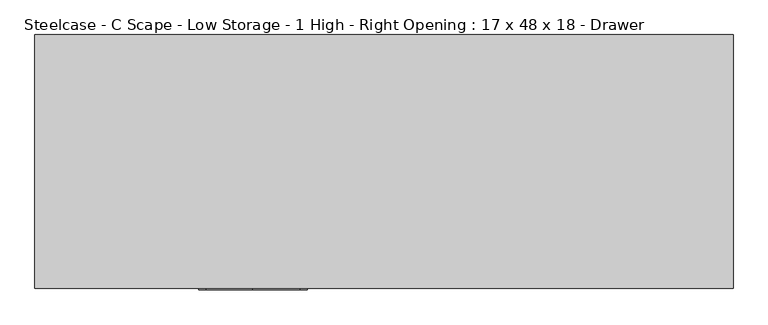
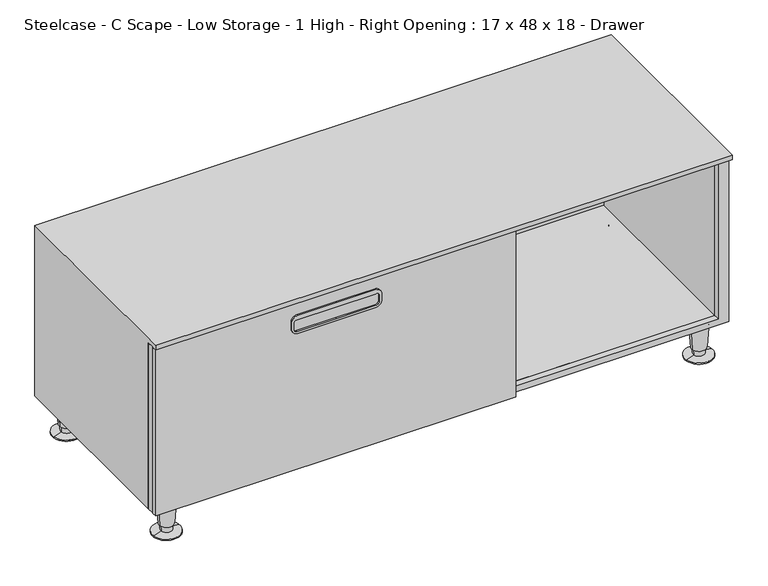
"""IFC4 building model written with IfcOpenShell, lengths in millimetres: furniture geometry, Steelcase - C Scape - Low Storage - 1 High - Right Opening : 17 x 48 x 18 - Drawer."""

from ifc_helpers import new_model, si_unit, point, frame, frame_2d, origin, place, context, project, spatial, polyline, circle_curve, trimmed, segment, composite_curve, outline, extrude, faceted_brep, source, transform, mapped, element, save
from ifc_brep_helpers import plane_surface, cylinder_surface, revolved_surface, advanced_brep


def steelcase_c_scape_low_storage_1_high_right_opening_17_x_48_x_c57a0b1c(model_context):
    return source(origin(), model_context, "Body", "SolidModel", [
        extrude(outline(polyline([(447.0400097, 0.0), (76.2, 0.0), (76.2, 1217.9313237), (447.0400097, 1217.9313237), (447.0400097, 0.0)]), holes=[polyline([(89.5349964, 1196.5930912), (89.5349964, 21.3382324), (436.2449927, 21.3382324), (436.2449927, 1196.5930912), (89.5349964, 1196.5930912)])]), frame((0.0, -428.8790543, 0.0), z_axis=(0.0, 1.0, 0.0), x_axis=(0.0, 0.0, 1.0)), (0.0, 0.0, 1.0), 13.587814),
        extrude(outline(composite_curve([segment(trimmed(circle_curve(frame_2d((409.5749879, 298.1323993)), 12.7), [point((422.2749879, 298.1323993))], [point((409.5749879, 285.4323993))], False, "CARTESIAN"), True, "CONTINUOUS"), segment(polyline([(409.5749879, 285.4323993), (394.970017, 285.4323993)]), True, "CONTINUOUS"), segment(trimmed(circle_curve(frame_2d((394.970017, 298.1323993)), 12.7), [point((394.970017, 285.4323993))], [point((382.270017, 298.1323993))], False, "CARTESIAN"), True, "CONTINUOUS"), segment(polyline([(382.270017, 298.1323993), (382.270017, 380.365155), (382.270017, 462.5979108)]), True, "CONTINUOUS"), segment(trimmed(circle_curve(frame_2d((394.970017, 462.5979108)), 12.7), [point((382.270017, 462.5979108))], [point((394.970017, 475.2979108))], False, "CARTESIAN"), True, "CONTINUOUS"), segment(polyline([(394.970017, 475.2979108), (409.5749879, 475.2979108)]), True, "CONTINUOUS"), segment(trimmed(circle_curve(frame_2d((409.5749879, 462.5979108)), 12.7), [point((409.5749879, 475.2979108))], [point((422.2749879, 462.5979108))], False, "CARTESIAN"), True, "CONTINUOUS"), segment(polyline([(422.2749879, 462.5979108), (422.2749879, 380.365155), (422.2749879, 298.1323993)]), True, "CONTINUOUS")], self_intersect=False), holes=[composite_curve([segment(trimmed(circle_curve(frame_2d((406.1460063, 296.6100116)), 6.35), [point((406.1460063, 290.2600116))], [point((412.4960063, 296.6100116))], True, "CARTESIAN"), True, "CONTINUOUS"), segment(polyline([(412.4960063, 296.6100116), (412.4960063, 380.365155), (412.4960063, 464.1202985)]), True, "CONTINUOUS"), segment(trimmed(circle_curve(frame_2d((406.1460063, 464.1202985)), 6.35), [point((412.4960063, 464.1202985))], [point((406.1460063, 470.4702985))], True, "CARTESIAN"), True, "CONTINUOUS"), segment(polyline([(406.1460063, 470.4702985), (393.4459942, 470.4702985)]), True, "CONTINUOUS"), segment(trimmed(circle_curve(frame_2d((393.4459942, 464.1202985)), 6.35), [point((393.4459942, 470.4702985))], [point((387.0959942, 464.1202985))], True, "CARTESIAN"), True, "CONTINUOUS"), segment(polyline([(387.0959942, 464.1202985), (387.0959942, 380.365155), (387.0959942, 296.6100116)]), True, "CONTINUOUS"), segment(trimmed(circle_curve(frame_2d((393.4459942, 296.6100116)), 6.35), [point((387.0959942, 296.6100116))], [point((393.4459942, 290.2600116))], True, "CARTESIAN"), True, "CONTINUOUS"), segment(polyline([(393.4459942, 290.2600116), (406.1460063, 290.2600116)]), True, "CONTINUOUS")], self_intersect=False)]), frame((0.0, -445.643, 0.0), z_axis=(0.0, 1.0, 0.0), x_axis=(0.0, 0.0, 1.0)), (0.0, 0.0, 1.0), 3.0479225),
        advanced_brep(
        [(1190.6611931, -31.5218435, 76.2), (1152.9994542, -37.2840847, 76.2), (1171.8303237, -34.4029641, 76.2), (1186.7108451, -32.1262463, 19.05), (1156.9498022, -36.6796819, 19.05), (1184.2812581, -32.4979728, 19.05), (1159.3793892, -36.3079555, 19.05), (1183.5924887, -32.6033544, 5.7545598), (1160.0681586, -36.2025738, 5.7545598), (1200.9413721, -29.9489775, 2.5119506), (1142.7192752, -38.8569507, 2.5119506), (1200.9413721, -29.9489775, 0.0), (1142.7192752, -38.8569507, 0.0), (1171.8303237, -34.4029641, 0.0)],
        [
            (0, 1, circle_curve(frame((1171.8303237, -34.4029641, 76.2), z_axis=(0.0, 0.0, 1.0), x_axis=(0.0, -1.0, 0.0)), 19.05)),
            (1, 2),
            (2, 0),
            (1, 0, circle_curve(frame((1171.8303237, -34.4029641, 76.2), z_axis=(0.0, 0.0, 1.0), x_axis=(0.0, -1.0, 0.0)), 19.05)),
            (3, 4, circle_curve(frame((1171.8303237, -34.4029641, 19.05), z_axis=(0.0, 0.0, 1.0), x_axis=(0.0, -1.0, 0.0)), 15.0536827)),
            (4, 1),
            (0, 3),
            (4, 3, circle_curve(frame((1171.8303237, -34.4029641, 19.05), z_axis=(0.0, 0.0, 1.0), x_axis=(0.0, -1.0, 0.0)), 15.0536827)),
            (5, 6, circle_curve(frame((1171.8303237, -34.4029641, 19.05), z_axis=(0.0, 0.0, 1.0), x_axis=(0.0, -1.0, 0.0)), 12.5958232)),
            (6, 4),
            (3, 5),
            (6, 5, circle_curve(frame((1171.8303237, -34.4029641, 19.05), z_axis=(0.0, 0.0, 1.0), x_axis=(0.0, -1.0, 0.0)), 12.5958232)),
            (7, 8, circle_curve(frame((1171.8303237, -34.4029641, 5.7545598), z_axis=(0.0, 0.0, 1.0), x_axis=(0.0, -1.0, 0.0)), 11.8990387)),
            (8, 6),
            (5, 7),
            (8, 7, circle_curve(frame((1171.8303237, -34.4029641, 5.7545598), z_axis=(0.0, 0.0, 1.0), x_axis=(0.0, -1.0, 0.0)), 11.8990387)),
            (9, 10, circle_curve(frame((1171.8303237, -34.4029641, 2.5119506), z_axis=(0.0, 0.0, 1.0), x_axis=(0.0, -1.0, 0.0)), 29.4498071)),
            (10, 8),
            (7, 9),
            (10, 9, circle_curve(frame((1171.8303237, -34.4029641, 2.5119506), z_axis=(0.0, 0.0, 1.0), x_axis=(0.0, -1.0, 0.0)), 29.4498071)),
            (11, 12, circle_curve(frame((1171.8303237, -34.4029641, 0.0), z_axis=(0.0, 0.0, 1.0), x_axis=(0.0, -1.0, 0.0)), 29.4498071)),
            (12, 10),
            (9, 11),
            (12, 11, circle_curve(frame((1171.8303237, -34.4029641, 0.0), z_axis=(0.0, 0.0, 1.0), x_axis=(0.0, -1.0, 0.0)), 29.4498071)),
            (13, 12),
            (11, 13),
        ],
        [
            plane_surface(frame((1171.8303237, -34.4029641, 76.2), z_axis=(0.0, 0.0, 1.0), x_axis=(0.0, -1.0, 0.0))),
            revolved_surface(polyline([(1171.8303237, -53.4529641, 76.2), (1171.8303237, -49.4566468, 19.05)]), (1171.8303237, -34.4029641, 25.4), (0.0, 0.0, -1.0)),
            plane_surface(frame((1171.8303237, -34.4029641, 19.05), z_axis=(0.0, 0.0, -1.0), x_axis=(0.0, -1.0, 0.0))),
            revolved_surface(polyline([(1171.8303237, -46.9987873, 19.05), (1171.8303237, -46.3020028, 5.7545598)]), (1171.8303237, -34.4029641, 25.4), (0.0, 0.0, -1.0)),
            revolved_surface(polyline([(1171.8303237, -46.3020028, 5.7545598), (1171.8303237, -63.8527712, 2.5119506)]), (1171.8303237, -34.4029641, 25.4), (0.0, 0.0, -1.0)),
            cylinder_surface(frame((1171.8303237, -34.4029641, 25.4), z_axis=(0.0, 0.0, -1.0), x_axis=(0.0, -1.0, 0.0)), 29.4498071),
            plane_surface(frame((1171.8303237, -34.4029641, 0.0), z_axis=(0.0, 0.0, -1.0), x_axis=(0.0, -1.0, 0.0))),
        ],
        [
            (0, [[1, 2, 3]]),
            (0, [[4, -3, -2]]),
            (1, [[5, 6, -1, 7]]),
            (1, [[8, -7, -4, -6]]),
            (2, [[9, 10, -5, 11]]),
            (2, [[12, -11, -8, -10]]),
            (3, [[13, 14, -9, 15]]),
            (3, [[16, -15, -12, -14]]),
            (4, [[17, 18, -13, 19]]),
            (4, [[20, -19, -16, -18]]),
            (5, [[21, 22, -17, 23]]),
            (5, [[24, -23, -20, -22]]),
            (6, [[25, -21, 26]]),
            (6, [[-26, -24, -25]]),
        ],
    ),
        advanced_brep(
        [(1190.6611931, -397.1702762, 76.2), (1152.9994542, -402.9325174, 76.2), (1171.8303237, -400.0513968, 76.2), (1186.7108451, -397.774679, 19.05), (1156.9498022, -402.3281146, 19.05), (1184.2812581, -398.1464055, 19.05), (1159.3793892, -401.9563882, 19.05), (1183.5924887, -398.2517871, 5.7545598), (1160.0681586, -401.8510065, 5.7545598), (1200.9413721, -395.5974102, 2.5119506), (1142.7192752, -404.5053834, 2.5119506), (1200.9413721, -395.5974102, 0.0), (1142.7192752, -404.5053834, 0.0), (1171.8303237, -400.0513968, 0.0)],
        [
            (0, 1, circle_curve(frame((1171.8303237, -400.0513968, 76.2), z_axis=(0.0, 0.0, 1.0), x_axis=(0.0, -1.0, 0.0)), 19.05)),
            (1, 2),
            (2, 0),
            (1, 0, circle_curve(frame((1171.8303237, -400.0513968, 76.2), z_axis=(0.0, 0.0, 1.0), x_axis=(0.0, -1.0, 0.0)), 19.05)),
            (3, 4, circle_curve(frame((1171.8303237, -400.0513968, 19.05), z_axis=(0.0, 0.0, 1.0), x_axis=(0.0, -1.0, 0.0)), 15.0536827)),
            (4, 1),
            (0, 3),
            (4, 3, circle_curve(frame((1171.8303237, -400.0513968, 19.05), z_axis=(0.0, 0.0, 1.0), x_axis=(0.0, -1.0, 0.0)), 15.0536827)),
            (5, 6, circle_curve(frame((1171.8303237, -400.0513968, 19.05), z_axis=(0.0, 0.0, 1.0), x_axis=(0.0, -1.0, 0.0)), 12.5958232)),
            (6, 4),
            (3, 5),
            (6, 5, circle_curve(frame((1171.8303237, -400.0513968, 19.05), z_axis=(0.0, 0.0, 1.0), x_axis=(0.0, -1.0, 0.0)), 12.5958232)),
            (7, 8, circle_curve(frame((1171.8303237, -400.0513968, 5.7545598), z_axis=(0.0, 0.0, 1.0), x_axis=(0.0, -1.0, 0.0)), 11.8990387)),
            (8, 6),
            (5, 7),
            (8, 7, circle_curve(frame((1171.8303237, -400.0513968, 5.7545598), z_axis=(0.0, 0.0, 1.0), x_axis=(0.0, -1.0, 0.0)), 11.8990387)),
            (9, 10, circle_curve(frame((1171.8303237, -400.0513968, 2.5119506), z_axis=(0.0, 0.0, 1.0), x_axis=(0.0, -1.0, 0.0)), 29.4498071)),
            (10, 8),
            (7, 9),
            (10, 9, circle_curve(frame((1171.8303237, -400.0513968, 2.5119506), z_axis=(0.0, 0.0, 1.0), x_axis=(0.0, -1.0, 0.0)), 29.4498071)),
            (11, 12, circle_curve(frame((1171.8303237, -400.0513968, 0.0), z_axis=(0.0, 0.0, 1.0), x_axis=(0.0, -1.0, 0.0)), 29.4498071)),
            (12, 10),
            (9, 11),
            (12, 11, circle_curve(frame((1171.8303237, -400.0513968, 0.0), z_axis=(0.0, 0.0, 1.0), x_axis=(0.0, -1.0, 0.0)), 29.4498071)),
            (13, 12),
            (11, 13),
        ],
        [
            plane_surface(frame((1171.8303237, -400.0513968, 76.2), z_axis=(0.0, 0.0, 1.0), x_axis=(0.0, -1.0, 0.0))),
            revolved_surface(polyline([(1171.8303237, -419.1013968, 76.2), (1171.8303237, -415.1050795, 19.05)]), (1171.8303237, -400.0513968, 25.4), (0.0, 0.0, -1.0)),
            plane_surface(frame((1171.8303237, -400.0513968, 19.05), z_axis=(0.0, 0.0, -1.0), x_axis=(0.0, -1.0, 0.0))),
            revolved_surface(polyline([(1171.8303237, -412.64722, 19.05), (1171.8303237, -411.9504355, 5.7545598)]), (1171.8303237, -400.0513968, 25.4), (0.0, 0.0, -1.0)),
            revolved_surface(polyline([(1171.8303237, -411.9504355, 5.7545598), (1171.8303237, -429.5012039, 2.5119506)]), (1171.8303237, -400.0513968, 25.4), (0.0, 0.0, -1.0)),
            cylinder_surface(frame((1171.8303237, -400.0513968, 25.4), z_axis=(0.0, 0.0, -1.0), x_axis=(0.0, -1.0, 0.0)), 29.4498071),
            plane_surface(frame((1171.8303237, -400.0513968, 0.0), z_axis=(0.0, 0.0, -1.0), x_axis=(0.0, -1.0, 0.0))),
        ],
        [
            (0, [[1, 2, 3]]),
            (0, [[4, -3, -2]]),
            (1, [[5, 6, -1, 7]]),
            (1, [[8, -7, -4, -6]]),
            (2, [[9, 10, -5, 11]]),
            (2, [[12, -11, -8, -10]]),
            (3, [[13, 14, -9, 15]]),
            (3, [[16, -15, -12, -14]]),
            (4, [[17, 18, -13, 19]]),
            (4, [[20, -19, -16, -18]]),
            (5, [[21, 22, -17, 23]]),
            (5, [[24, -23, -20, -22]]),
            (6, [[25, -21, 26]]),
            (6, [[-26, -24, -25]]),
        ],
    ),
        advanced_brep(
        [(65.5422821, -397.1702762, 76.2), (27.8805432, -402.9325174, 76.2), (46.7114126, -400.0513968, 76.2), (61.5919341, -397.774679, 19.05), (31.8308912, -402.3281146, 19.05), (59.1623471, -398.1464055, 19.05), (34.2604781, -401.9563882, 19.05), (58.4735776, -398.2517871, 5.7545598), (34.9492476, -401.8510065, 5.7545598), (75.8224611, -395.5974102, 2.5119506), (17.6003641, -404.5053834, 2.5119506), (75.8224611, -395.5974102, 0.0), (17.6003641, -404.5053834, 0.0), (46.7114126, -400.0513968, 0.0)],
        [
            (0, 1, circle_curve(frame((46.7114126, -400.0513968, 76.2), z_axis=(0.0, 0.0, 1.0), x_axis=(0.0, -1.0, 0.0)), 19.05)),
            (1, 2),
            (2, 0),
            (1, 0, circle_curve(frame((46.7114126, -400.0513968, 76.2), z_axis=(0.0, 0.0, 1.0), x_axis=(0.0, -1.0, 0.0)), 19.05)),
            (3, 4, circle_curve(frame((46.7114126, -400.0513968, 19.05), z_axis=(0.0, 0.0, 1.0), x_axis=(0.0, -1.0, 0.0)), 15.0536827)),
            (4, 1),
            (0, 3),
            (4, 3, circle_curve(frame((46.7114126, -400.0513968, 19.05), z_axis=(0.0, 0.0, 1.0), x_axis=(0.0, -1.0, 0.0)), 15.0536827)),
            (5, 6, circle_curve(frame((46.7114126, -400.0513968, 19.05), z_axis=(0.0, 0.0, 1.0), x_axis=(0.0, -1.0, 0.0)), 12.5958232)),
            (6, 4),
            (3, 5),
            (6, 5, circle_curve(frame((46.7114126, -400.0513968, 19.05), z_axis=(0.0, 0.0, 1.0), x_axis=(0.0, -1.0, 0.0)), 12.5958232)),
            (7, 8, circle_curve(frame((46.7114126, -400.0513968, 5.7545598), z_axis=(0.0, 0.0, 1.0), x_axis=(0.0, -1.0, 0.0)), 11.8990387)),
            (8, 6),
            (5, 7),
            (8, 7, circle_curve(frame((46.7114126, -400.0513968, 5.7545598), z_axis=(0.0, 0.0, 1.0), x_axis=(0.0, -1.0, 0.0)), 11.8990387)),
            (9, 10, circle_curve(frame((46.7114126, -400.0513968, 2.5119506), z_axis=(0.0, 0.0, 1.0), x_axis=(0.0, -1.0, 0.0)), 29.4498071)),
            (10, 8),
            (7, 9),
            (10, 9, circle_curve(frame((46.7114126, -400.0513968, 2.5119506), z_axis=(0.0, 0.0, 1.0), x_axis=(0.0, -1.0, 0.0)), 29.4498071)),
            (11, 12, circle_curve(frame((46.7114126, -400.0513968, 0.0), z_axis=(0.0, 0.0, 1.0), x_axis=(0.0, -1.0, 0.0)), 29.4498071)),
            (12, 10),
            (9, 11),
            (12, 11, circle_curve(frame((46.7114126, -400.0513968, 0.0), z_axis=(0.0, 0.0, 1.0), x_axis=(0.0, -1.0, 0.0)), 29.4498071)),
            (13, 12),
            (11, 13),
        ],
        [
            plane_surface(frame((46.7114126, -400.0513968, 76.2), z_axis=(0.0, 0.0, 1.0), x_axis=(0.0, -1.0, 0.0))),
            revolved_surface(polyline([(46.7114126, -419.1013968, 76.2), (46.7114126, -415.1050795, 19.05)]), (46.7114126, -400.0513968, 25.4), (0.0, 0.0, -1.0)),
            plane_surface(frame((46.7114126, -400.0513968, 19.05), z_axis=(0.0, 0.0, -1.0), x_axis=(0.0, -1.0, 0.0))),
            revolved_surface(polyline([(46.7114126, -412.64722, 19.05), (46.7114126, -411.9504355, 5.7545598)]), (46.7114126, -400.0513968, 25.4), (0.0, 0.0, -1.0)),
            revolved_surface(polyline([(46.7114126, -411.9504355, 5.7545598), (46.7114126, -429.5012039, 2.5119506)]), (46.7114126, -400.0513968, 25.4), (0.0, 0.0, -1.0)),
            cylinder_surface(frame((46.7114126, -400.0513968, 25.4), z_axis=(0.0, 0.0, -1.0), x_axis=(0.0, -1.0, 0.0)), 29.4498071),
            plane_surface(frame((46.7114126, -400.0513968, 0.0), z_axis=(0.0, 0.0, -1.0), x_axis=(0.0, -1.0, 0.0))),
        ],
        [
            (0, [[1, 2, 3]]),
            (0, [[4, -3, -2]]),
            (1, [[5, 6, -1, 7]]),
            (1, [[8, -7, -4, -6]]),
            (2, [[9, 10, -5, 11]]),
            (2, [[12, -11, -8, -10]]),
            (3, [[13, 14, -9, 15]]),
            (3, [[16, -15, -12, -14]]),
            (4, [[17, 18, -13, 19]]),
            (4, [[20, -19, -16, -18]]),
            (5, [[21, 22, -17, 23]]),
            (5, [[24, -23, -20, -22]]),
            (6, [[25, -21, 26]]),
            (6, [[-26, -24, -25]]),
        ],
    ),
        advanced_brep(
        [(65.5422821, -31.5218435, 76.2), (27.8805432, -37.2840847, 76.2), (46.7114126, -34.4029641, 76.2), (61.5919341, -32.1262463, 19.05), (31.8308912, -36.6796819, 19.05), (59.1623471, -32.4979728, 19.05), (34.2604781, -36.3079555, 19.05), (58.4735776, -32.6033544, 5.7545598), (34.9492476, -36.2025738, 5.7545598), (75.8224611, -29.9489775, 2.5119506), (17.6003641, -38.8569507, 2.5119506), (75.8224611, -29.9489775, 0.0), (17.6003641, -38.8569507, 0.0), (46.7114126, -34.4029641, 0.0)],
        [
            (0, 1, circle_curve(frame((46.7114126, -34.4029641, 76.2), z_axis=(0.0, 0.0, 1.0), x_axis=(0.0, -1.0, 0.0)), 19.05)),
            (1, 2),
            (2, 0),
            (1, 0, circle_curve(frame((46.7114126, -34.4029641, 76.2), z_axis=(0.0, 0.0, 1.0), x_axis=(0.0, -1.0, 0.0)), 19.05)),
            (3, 4, circle_curve(frame((46.7114126, -34.4029641, 19.05), z_axis=(0.0, 0.0, 1.0), x_axis=(0.0, -1.0, 0.0)), 15.0536827)),
            (4, 1),
            (0, 3),
            (4, 3, circle_curve(frame((46.7114126, -34.4029641, 19.05), z_axis=(0.0, 0.0, 1.0), x_axis=(0.0, -1.0, 0.0)), 15.0536827)),
            (5, 6, circle_curve(frame((46.7114126, -34.4029641, 19.05), z_axis=(0.0, 0.0, 1.0), x_axis=(0.0, -1.0, 0.0)), 12.5958232)),
            (6, 4),
            (3, 5),
            (6, 5, circle_curve(frame((46.7114126, -34.4029641, 19.05), z_axis=(0.0, 0.0, 1.0), x_axis=(0.0, -1.0, 0.0)), 12.5958232)),
            (7, 8, circle_curve(frame((46.7114126, -34.4029641, 5.7545598), z_axis=(0.0, 0.0, 1.0), x_axis=(0.0, -1.0, 0.0)), 11.8990387)),
            (8, 6),
            (5, 7),
            (8, 7, circle_curve(frame((46.7114126, -34.4029641, 5.7545598), z_axis=(0.0, 0.0, 1.0), x_axis=(0.0, -1.0, 0.0)), 11.8990387)),
            (9, 10, circle_curve(frame((46.7114126, -34.4029641, 2.5119506), z_axis=(0.0, 0.0, 1.0), x_axis=(0.0, -1.0, 0.0)), 29.4498071)),
            (10, 8),
            (7, 9),
            (10, 9, circle_curve(frame((46.7114126, -34.4029641, 2.5119506), z_axis=(0.0, 0.0, 1.0), x_axis=(0.0, -1.0, 0.0)), 29.4498071)),
            (11, 12, circle_curve(frame((46.7114126, -34.4029641, 0.0), z_axis=(0.0, 0.0, 1.0), x_axis=(0.0, -1.0, 0.0)), 29.4498071)),
            (12, 10),
            (9, 11),
            (12, 11, circle_curve(frame((46.7114126, -34.4029641, 0.0), z_axis=(0.0, 0.0, 1.0), x_axis=(0.0, -1.0, 0.0)), 29.4498071)),
            (13, 12),
            (11, 13),
        ],
        [
            plane_surface(frame((46.7114126, -34.4029641, 76.2), z_axis=(0.0, 0.0, 1.0), x_axis=(0.0, -1.0, 0.0))),
            revolved_surface(polyline([(46.7114126, -53.4529641, 76.2), (46.7114126, -49.4566468, 19.05)]), (46.7114126, -34.4029641, 25.4), (0.0, 0.0, -1.0)),
            plane_surface(frame((46.7114126, -34.4029641, 19.05), z_axis=(0.0, 0.0, -1.0), x_axis=(0.0, -1.0, 0.0))),
            revolved_surface(polyline([(46.7114126, -46.9987873, 19.05), (46.7114126, -46.3020028, 5.7545598)]), (46.7114126, -34.4029641, 25.4), (0.0, 0.0, -1.0)),
            revolved_surface(polyline([(46.7114126, -46.3020028, 5.7545598), (46.7114126, -63.8527712, 2.5119506)]), (46.7114126, -34.4029641, 25.4), (0.0, 0.0, -1.0)),
            cylinder_surface(frame((46.7114126, -34.4029641, 25.4), z_axis=(0.0, 0.0, -1.0), x_axis=(0.0, -1.0, 0.0)), 29.4498071),
            plane_surface(frame((46.7114126, -34.4029641, 0.0), z_axis=(0.0, 0.0, -1.0), x_axis=(0.0, -1.0, 0.0))),
        ],
        [
            (0, [[1, 2, 3]]),
            (0, [[4, -3, -2]]),
            (1, [[5, 6, -1, 7]]),
            (1, [[8, -7, -4, -6]]),
            (2, [[9, 10, -5, 11]]),
            (2, [[12, -11, -8, -10]]),
            (3, [[13, 14, -9, 15]]),
            (3, [[16, -15, -12, -14]]),
            (4, [[17, 18, -13, 19]]),
            (4, [[20, -19, -16, -18]]),
            (5, [[21, 22, -17, 23]]),
            (5, [[24, -23, -20, -22]]),
            (6, [[25, -21, 26]]),
            (6, [[-26, -24, -25]]),
        ],
    ),
        faceted_brep([(1217.9313237, 0.0, 457.2), (0.0, 0.0, 457.2), (0.0, -442.5950775, 457.2), (1217.9313237, -442.5950775, 457.2), (1217.9313237, -442.5950775, 447.0400097), (0.0, -442.5950775, 447.0400097), (0.0, -415.2912402, 447.0400097), (21.3382324, -415.2912402, 447.0400097), (21.3382324, -9.525, 447.0400097), (738.3783101, -9.525, 447.0400097), (738.3783101, -426.7186111, 447.0400097), (760.7303101, -426.7186111, 447.0400097), (760.7303101, -9.525, 447.0400097), (1196.5930912, -9.525, 447.0400097), (1196.5930912, -415.2912402, 447.0400097), (1217.9313237, -415.2912402, 447.0400097), (1217.9313237, 0.0, 76.2), (0.0, 0.0, 76.2), (0.0, -415.2912402, 76.2), (1217.9313237, -415.2912402, 76.2), (21.3382324, -415.2912402, 89.5349964), (21.3382324, -9.525, 89.5349964), (738.3783101, -9.525, 89.5349964), (738.3783101, -426.7186111, 76.2), (738.3783101, -415.2912402, 89.5349964), (738.3783101, -415.2912402, 76.2), (760.7303101, -426.7186111, 76.2), (760.7303101, -415.2912402, 76.2), (760.7303101, -415.2912402, 89.5349964), (760.7303101, -9.525, 89.5349964), (1196.5930912, -9.525, 89.5349964), (1196.5930912, -415.2912402, 89.5349964)], [[[0, 1, 2, 3]], [[4, 5, 6, 7, 8, 9, 10, 11, 12, 13, 14, 15]], [[1, 0, 16, 17]], [[2, 1, 17, 18, 6, 5]], [[3, 2, 5, 4]], [[0, 3, 4, 15, 19, 16]], [[8, 7, 20, 21]], [[9, 8, 21, 22]], [[23, 10, 9, 22, 24, 25]], [[11, 26, 27, 28, 29, 12]], [[13, 12, 29, 30]], [[14, 13, 30, 31]], [[28, 31, 30, 29]], [[20, 24, 22, 21]], [[16, 19, 27, 26, 23, 25, 18, 17]], [[27, 19, 15, 14, 31, 28]], [[18, 25, 24, 20, 7, 6]], [[23, 26, 11, 10]]]),
        extrude(outline(polyline([(760.7303101, -442.5950775), (0.0, -442.5950775), (0.0, -432.054), (760.7303101, -432.054), (760.7303101, -442.5950775)])), frame((0.0, 0.0, 76.2), z_axis=(0.0, 0.0, 1.0), x_axis=(1.0, 0.0, 0.0)), (0.0, 0.0, 1.0), 370.8400097),
    ])


if __name__ == "__main__":
    model = new_model("IFC4")
    model_context = context("Model", 3, world=origin())
    ifc_project = project(units=[si_unit("LENGTHUNIT", "METRE", prefix="MILLI")], contexts=[model_context])
    site = spatial("IfcSite", under=ifc_project)
    building = spatial("IfcBuilding", under=site)
    placement = place(None, origin())
    steelcase_c_scape_low_storage_1_high_right_opening_17_x_48_x_shape = steelcase_c_scape_low_storage_1_high_right_opening_17_x_48_x_c57a0b1c(model_context)
    element("IfcFurniture", 1, ObjectType="Steelcase - C Scape - Low Storage - 1 High - Right Opening : 17 x 48 x 18 - Drawer", at=placement, inside=building, context=model_context, shape_type="MappedRepresentation", body=[
        mapped(steelcase_c_scape_low_storage_1_high_right_opening_17_x_48_x_shape, transform((0.0, 0.0, 0.0), x_axis=(1.0, 0.0, 0.0), y_axis=(0.0, 1.0, 0.0), z_axis=(0.0, 0.0, 1.0))),
    ])
    save(model, "model.ifc")
